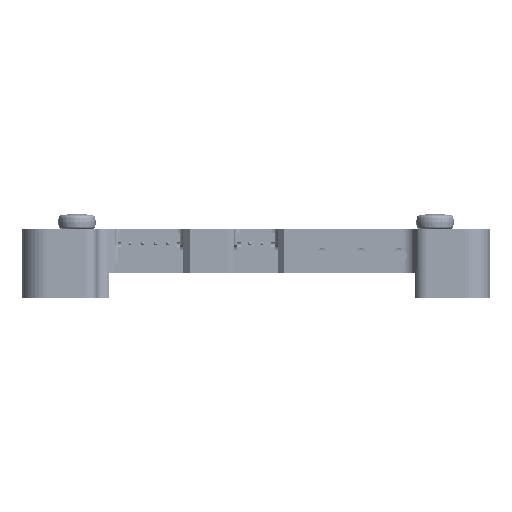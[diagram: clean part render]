
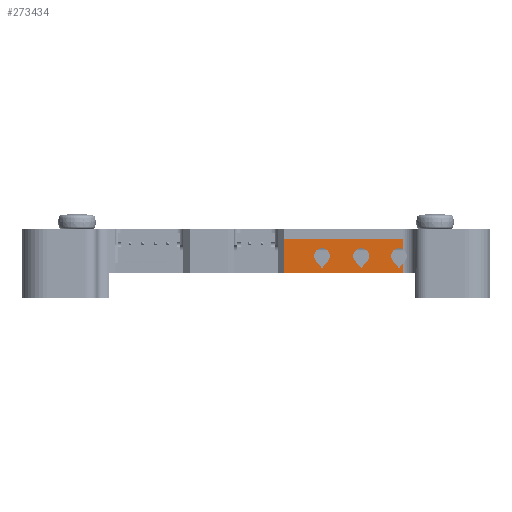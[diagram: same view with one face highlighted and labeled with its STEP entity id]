
A CAD part, front view. The second image highlights one B-rep face of the part: STEP entity #273434.
In plain terms, the highlighted planar face has unit normal (0, -1, 0).
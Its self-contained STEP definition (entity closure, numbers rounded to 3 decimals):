
#1554=FACE_BOUND('',#24881,.T.);
#1555=FACE_BOUND('',#24882,.T.);
#11162=FACE_OUTER_BOUND('',#24880,.T.);
#24880=EDGE_LOOP('',(#227805,#227806,#227807,#227808,#227809,#227810,#227811,
#227812));
#24881=EDGE_LOOP('',(#227813,#227814,#227815));
#24882=EDGE_LOOP('',(#227816,#227817,#227818));
#29449=CIRCLE('',#287408,1.25);
#29452=CIRCLE('',#287412,1.25);
#29455=CIRCLE('',#287416,1.25);
#56370=LINE('',#417479,#94829);
#56373=LINE('',#417485,#94832);
#56377=LINE('',#417496,#94836);
#56380=LINE('',#417502,#94839);
#56384=LINE('',#417511,#94843);
#56387=LINE('',#417517,#94846);
#56389=LINE('',#417587,#94848);
#56665=LINE('',#418342,#95124);
#56666=LINE('',#418345,#95125);
#56667=LINE('',#418346,#95126);
#56668=LINE('',#418347,#95127);
#94829=VECTOR('',#338320,10.);
#94832=VECTOR('',#338325,10.);
#94836=VECTOR('',#338333,10.);
#94839=VECTOR('',#338338,10.);
#94843=VECTOR('',#338344,10.);
#94846=VECTOR('',#338349,10.);
#94848=VECTOR('',#338377,10.);
#95124=VECTOR('',#339147,10.);
#95125=VECTOR('',#339150,10.);
#95126=VECTOR('',#339151,2.);
#95127=VECTOR('',#339152,2.);
#124851=VERTEX_POINT('',#417476);
#124852=VERTEX_POINT('',#417478);
#124854=VERTEX_POINT('',#417484);
#124858=VERTEX_POINT('',#417493);
#124859=VERTEX_POINT('',#417495);
#124861=VERTEX_POINT('',#417501);
#124864=VERTEX_POINT('',#417508);
#124865=VERTEX_POINT('',#417510);
#124867=VERTEX_POINT('',#417516);
#124868=VERTEX_POINT('',#417520);
#124875=VERTEX_POINT('',#417585);
#124876=VERTEX_POINT('',#417586);
#125108=VERTEX_POINT('',#418340);
#125109=VERTEX_POINT('',#418344);
#160234=EDGE_CURVE('',#124852,#124851,#56370,.T.);
#160237=EDGE_CURVE('',#124854,#124852,#56373,.T.);
#160242=EDGE_CURVE('',#124859,#124858,#56377,.T.);
#160245=EDGE_CURVE('',#124861,#124859,#56380,.T.);
#160249=EDGE_CURVE('',#124865,#124864,#56384,.T.);
#160252=EDGE_CURVE('',#124867,#124865,#56387,.T.);
#160255=EDGE_CURVE('',#124851,#124868,#29449,.T.);
#160259=EDGE_CURVE('',#124858,#124861,#29452,.T.);
#160263=EDGE_CURVE('',#124864,#124867,#29455,.T.);
#160267=EDGE_CURVE('',#124875,#124876,#56389,.T.);
#160646=EDGE_CURVE('',#124875,#125108,#56665,.T.);
#160647=EDGE_CURVE('',#125108,#125109,#56666,.T.);
#160648=EDGE_CURVE('',#124854,#124876,#56667,.T.);
#160649=EDGE_CURVE('',#125109,#124868,#56668,.T.);
#227805=ORIENTED_EDGE('',*,*,#160647,.F.);
#227806=ORIENTED_EDGE('',*,*,#160646,.F.);
#227807=ORIENTED_EDGE('',*,*,#160267,.T.);
#227808=ORIENTED_EDGE('',*,*,#160648,.F.);
#227809=ORIENTED_EDGE('',*,*,#160237,.T.);
#227810=ORIENTED_EDGE('',*,*,#160234,.T.);
#227811=ORIENTED_EDGE('',*,*,#160255,.T.);
#227812=ORIENTED_EDGE('',*,*,#160649,.F.);
#227813=ORIENTED_EDGE('',*,*,#160252,.T.);
#227814=ORIENTED_EDGE('',*,*,#160249,.T.);
#227815=ORIENTED_EDGE('',*,*,#160263,.T.);
#227816=ORIENTED_EDGE('',*,*,#160245,.T.);
#227817=ORIENTED_EDGE('',*,*,#160242,.T.);
#227818=ORIENTED_EDGE('',*,*,#160259,.T.);
#260039=PLANE('',#287667);
#273434=ADVANCED_FACE('',(#11162,#1554,#1555),#260039,.T.);
#287408=AXIS2_PLACEMENT_3D('',#417534,#338353,#338354);
#287412=AXIS2_PLACEMENT_3D('',#417551,#338361,#338362);
#287416=AXIS2_PLACEMENT_3D('',#417568,#338369,#338370);
#287667=AXIS2_PLACEMENT_3D('',#418343,#339148,#339149);
#338320=DIRECTION('',(-0.643,0.,0.766));
#338325=DIRECTION('',(-0.643,0.,-0.766));
#338333=DIRECTION('',(-0.643,0.,0.766));
#338338=DIRECTION('',(-0.643,0.,-0.766));
#338344=DIRECTION('',(-0.643,0.,0.766));
#338349=DIRECTION('',(-0.643,0.,-0.766));
#338353=DIRECTION('center_axis',(0.,1.,0.));
#338354=DIRECTION('ref_axis',(1.,0.,0.));
#338361=DIRECTION('center_axis',(0.,1.,0.));
#338362=DIRECTION('ref_axis',(1.,0.,0.));
#338369=DIRECTION('center_axis',(0.,1.,0.));
#338370=DIRECTION('ref_axis',(1.,0.,0.));
#338377=DIRECTION('',(1.,0.,0.));
#339147=DIRECTION('',(0.,0.,1.));
#339148=DIRECTION('center_axis',(0.,-1.,0.));
#339149=DIRECTION('ref_axis',(-1.,0.,0.));
#339150=DIRECTION('',(1.,0.,0.));
#339151=DIRECTION('',(0.,0.,-1.));
#339152=DIRECTION('',(0.,0.,-1.));
#417476=CARTESIAN_POINT('',(126.308,-135.5,1.892));
#417478=CARTESIAN_POINT('',(127.265,-135.5,0.75));
#417479=CARTESIAN_POINT('',(128.22,-135.5,-0.387));
#417484=CARTESIAN_POINT('',(127.877,-135.5,1.479));
#417485=CARTESIAN_POINT('',(131.535,-135.5,5.838));
#417493=CARTESIAN_POINT('',(120.279,-135.5,1.892));
#417495=CARTESIAN_POINT('',(121.236,-135.5,0.75));
#417496=CARTESIAN_POINT('',(123.436,-135.5,-1.872));
#417501=CARTESIAN_POINT('',(122.194,-135.5,1.892));
#417502=CARTESIAN_POINT('',(126.751,-135.5,7.323));
#417508=CARTESIAN_POINT('',(114.042,-135.5,1.892));
#417510=CARTESIAN_POINT('',(115.,-135.5,0.75));
#417511=CARTESIAN_POINT('',(118.488,-135.5,-3.407));
#417516=CARTESIAN_POINT('',(115.958,-135.5,1.892));
#417517=CARTESIAN_POINT('',(121.803,-135.5,8.858));
#417520=CARTESIAN_POINT('',(127.877,-135.5,3.785));
#417534=CARTESIAN_POINT('Origin',(127.265,-135.5,2.695));
#417551=CARTESIAN_POINT('Origin',(121.236,-135.5,2.695));
#417568=CARTESIAN_POINT('Origin',(115.,-135.5,2.695));
#417585=CARTESIAN_POINT('',(108.95,-135.5,0.));
#417586=CARTESIAN_POINT('',(127.877,-135.5,0.));
#417587=CARTESIAN_POINT('',(121.625,-135.5,0.));
#418340=CARTESIAN_POINT('',(108.95,-135.5,5.41));
#418342=CARTESIAN_POINT('',(108.95,-135.5,5.51));
#418343=CARTESIAN_POINT('Origin',(138.75,-135.5,6.51));
#418344=CARTESIAN_POINT('',(127.877,-135.5,5.41));
#418345=CARTESIAN_POINT('',(121.625,-135.5,5.41));
#418346=CARTESIAN_POINT('',(127.877,-135.5,6.51));
#418347=CARTESIAN_POINT('',(127.877,-135.5,6.51));
